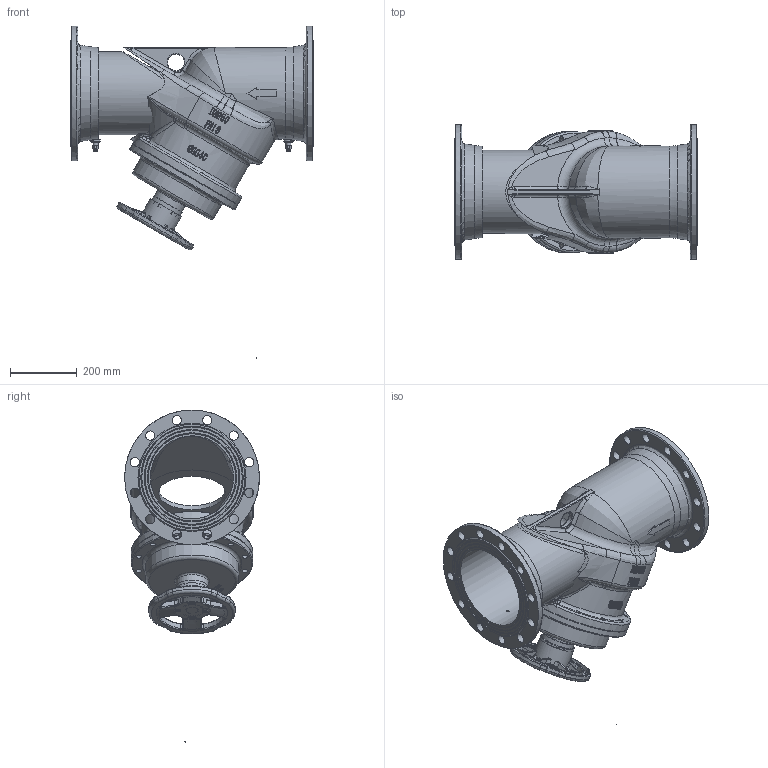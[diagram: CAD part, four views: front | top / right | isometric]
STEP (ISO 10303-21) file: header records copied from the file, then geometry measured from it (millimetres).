
FILE_DESCRIPTION(('STEP AP203'), '1');
FILE_NAME('3D_347-250-16', '', ('UNSPECIFIED'), ('UNSPECIFIED'), 'C3D Converter', 'C3D Toolkit', '');
FILE_SCHEMA(('CONFIG_CONTROL_DESIGN'));
Length unit declared in the file: millimetre
Assembly tree (14 placements, depth 2):
  (unnamed)
    (unnamed)
    (unnamed)
    (unnamed)
    (unnamed)
    (unnamed)
    (unnamed)
    (unnamed)
    (unnamed)
    (unnamed)
    (unnamed)
    (unnamed)
    (unnamed)
    (unnamed)
    (unnamed)
Bounding box: 730 x 405 x 997.78 mm (x, y, z)
Volume: 487908.8 mm3; surface area: 2487781.9 mm2
Topology: 15 solids, 20 shells, 4218 faces, 11502 edges, 7335 vertices
Faces by surface type: plane 1209, bspline 1070, cone 996, cylinder 781, torus 160, sphere 2
Full cylindrical faces by diameter (mm): 0.009 x4, 0.016 x408, 3.5 x4, 6.6 x4, 8 x4, 11 x3, 12.8 x4, 13.8 x12, 15 x2, 16 x1, 18 x12, 20 x1, 28 x26, 29 x1, 37 x1, 38.4 x1, 50 x2, 60 x1, 78 x1, 90 x1, 96 x2, 99 x1, 103 x1, 200 x1, 211 x1, 246 x2, 250 x2, 253 x1, 254 x1, 276 x1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
Entity records: 309474 total; most frequent: CARTESIAN_POINT 181731, ORIENTED_EDGE 19813, DIRECTION 16395, EDGE_CURVE 9908, VERTEX_POINT 7331, AXIS2_PLACEMENT_3D 6800, EDGE_LOOP 5970, FACE_BOUND 5235
